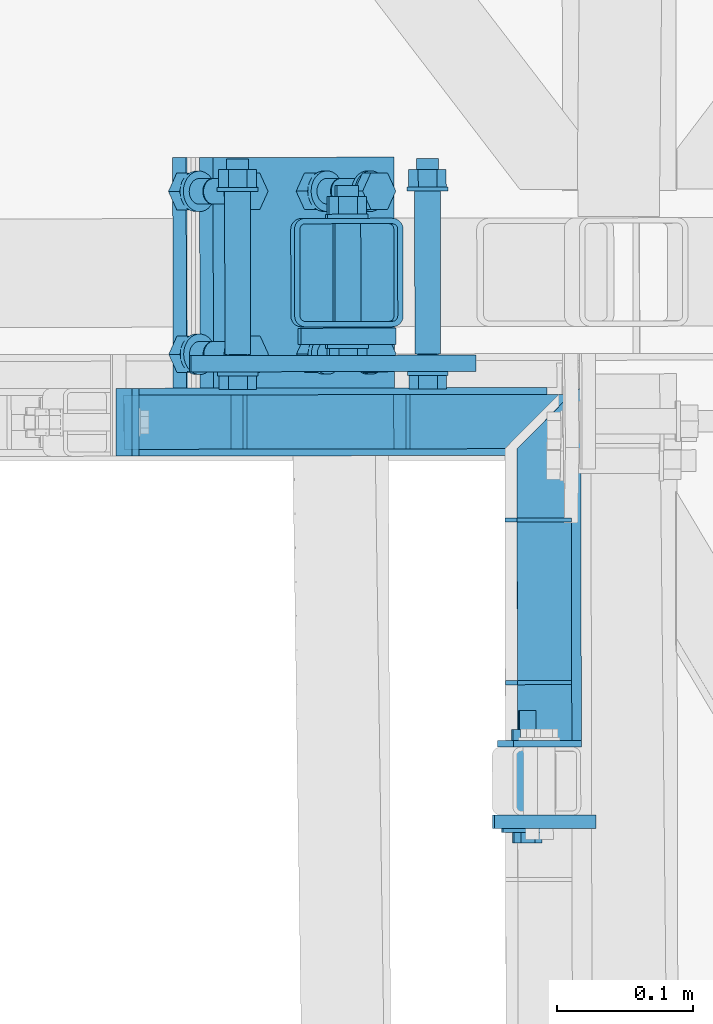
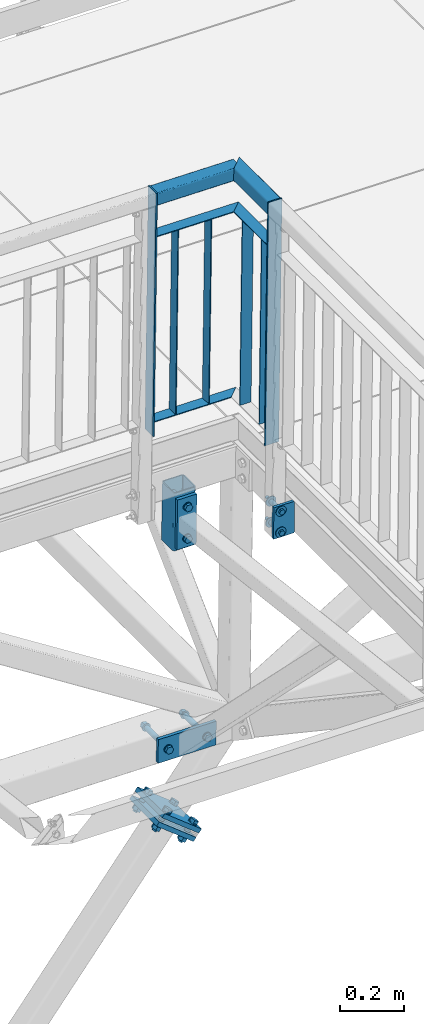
# One storey, part 108 of 169: 17 discrete accessories, 4 mechanical fasteners, 5 elements without a shape of their own.
"""IFC2X3 building model written with IfcOpenShell, lengths in millimetres."""

from ifc_helpers import new_model, si_unit, frame, frame_2d, origin_with_axes, origin_2d_with_axis, place, context, subcontext, project, spatial, polyline, circle_curve, parameter, trimmed, segment, composite_curve, rectangle, hollow_rectangle, circle, outline, extrude, boolean, clip, halfspace, source, transform, mapped, material, type_object, element, aggregate, save


model = new_model("IFC2X3")

# Units and contexts
model_context = context("Model", 3, precision=1e-05, world=origin_with_axes())
body_context = subcontext(model_context, "Body", "Model", "MODEL_VIEW")
ifc_project = project(units=[si_unit("LENGTHUNIT", "METRE", prefix="MILLI"), si_unit("AREAUNIT", "SQUARE_METRE"), si_unit("VOLUMEUNIT", "CUBIC_METRE"), si_unit("MASSUNIT", "GRAM", prefix="KILO"), si_unit("TIMEUNIT", "SECOND"), si_unit("PLANEANGLEUNIT", "RADIAN"), si_unit("SOLIDANGLEUNIT", "STERADIAN"), si_unit("THERMODYNAMICTEMPERATUREUNIT", "DEGREE_CELSIUS"), si_unit("LUMINOUSINTENSITYUNIT", "LUMEN")], contexts=[model_context])

# Site, building, storey
site_placement = place(None, origin_with_axes())
site = spatial("IfcSite", under=ifc_project, at=site_placement, Name="Undefined", CompositionType="ELEMENT")
building_placement = place(site_placement, origin_with_axes())
building = spatial("IfcBuilding", under=site, at=building_placement, Name="Undefined", CompositionType="ELEMENT")
storey_placement = place(building_placement, origin_with_axes())
storey = spatial("IfcBuildingStorey", under=building, at=storey_placement, Name="Undefined", CompositionType="ELEMENT", Elevation=0.0)

# Assembly, discrete accessory
assembly_1_placement = place(storey_placement, origin_with_axes())
assembly_1 = element("IfcElementAssembly", 1, at=assembly_1_placement, inside=storey, Name="Steel Assembly", AssemblyPlace="NOTDEFINED", PredefinedType="RIGID_FRAME")
ifc_material_1 = material(Name="STEEL/S235")
discrete_accessory_type_1 = type_object("IfcDiscreteAccessoryType", Name="BLACHA")
discrete_accessory_1_placement = place(assembly_1_placement, frame((7703.45379767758, -285.620756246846, 13856.3389885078), z_axis=(-0.0018648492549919, 0.999998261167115, -4.2996762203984e-08), x_axis=(-0.999917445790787, -0.00186469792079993, 0.0127131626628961)))
discrete_accessory_1 = element("IfcDiscreteAccessory", 2, at=discrete_accessory_1_placement, type_object=discrete_accessory_type_1, material=ifc_material_1, Name="BLACHA", ObjectType="BL10*120", context=body_context, shape_type="SweptSolid", body=[
    extrude(outline(polyline([(75.0001398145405, -60.0000000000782), (-5.35749222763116e-11, -59.9999999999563), (5.3567816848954e-11, 59.9999999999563), (75.0001398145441, 59.9999999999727), (75.0001398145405, -60.0000000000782)])), frame((-1.81898926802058e-12, -1.18000176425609e-16, -5.00000000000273), z_axis=(0.0, 0.0, 1.0), x_axis=(1.0, 0.0, 0.0)), (0.0, 0.0, 1.0), 10.0),
])
aggregate(assembly_1, [discrete_accessory_1])

# Assembly, discrete accessories
assembly_2_placement = place(storey_placement, origin_with_axes())
assembly_2 = element("IfcElementAssembly", 3, at=assembly_2_placement, inside=storey, Name="Steel Assembly", AssemblyPlace="NOTDEFINED", PredefinedType="RIGID_FRAME")
discrete_accessory_2_placement = place(assembly_2_placement, frame((7681.64119606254, -228.161326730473, 14115.6358857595), z_axis=(-0.0018648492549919, 0.999998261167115, -4.2996762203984e-08), x_axis=(-0.999917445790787, -0.00186469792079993, 0.0127131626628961)))
discrete_accessory_2 = element("IfcDiscreteAccessory", 4, at=discrete_accessory_2_placement, type_object=discrete_accessory_type_1, material=ifc_material_1, Name="BLACHA", ObjectType="BL5*50", context=body_context, shape_type="SweptSolid", body=[
    extrude(outline(polyline([(0.0, 0.0), (50.0000000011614, 3.27418092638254e-11), (50.0000000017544, 926.000000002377), (3.10365066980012e-08, 926.000000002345), (0.0, 0.0)])), frame((6.80888809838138e-19, -2.87858853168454e-21, -2.49999999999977), z_axis=(0.0, 0.0, 1.0), x_axis=(1.0, 0.0, 0.0)), (0.0, 0.0, 1.0), 5.0),
])
discrete_accessory_3_placement = place(assembly_2_placement, frame((7352.87333388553, 33.7260287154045, 14119.8096749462), z_axis=(-0.999917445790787, -0.00186469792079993, 0.0127131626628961), x_axis=(0.00186484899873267, -0.999998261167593, 4.28757666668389e-08)))
discrete_accessory_3 = element("IfcDiscreteAccessory", 5, at=discrete_accessory_3_placement, type_object=discrete_accessory_type_1, material=ifc_material_1, Name="BLACHA", ObjectType="BL5*50", context=body_context, shape_type="SweptSolid", body=[
    extrude(outline(polyline([(0.0, 0.0), (50.0000000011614, 3.27418092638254e-11), (50.0000000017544, 926.000000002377), (3.10365066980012e-08, 926.000000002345), (0.0, 0.0)])), frame((6.80888809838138e-19, -2.87858853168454e-21, -2.49999999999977), z_axis=(0.0, 0.0, 1.0), x_axis=(1.0, 0.0, 0.0)), (0.0, 0.0, 1.0), 5.0),
])

assembly_3_placement = place(storey_placement, origin_with_axes())
assembly_3 = element("IfcElementAssembly", 6, at=assembly_3_placement, inside=storey, Name="Steel Assembly", AssemblyPlace="NOTDEFINED", PredefinedType="RIGID_FRAME")
ifc_material_2 = material(Name="STEEL/S355")
discrete_accessory_4_placement = place(assembly_3_placement, frame((7615.11652637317, 52.2150508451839, 12857.373276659), z_axis=(0.00186484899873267, -0.999998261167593, 4.28757666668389e-08), x_axis=(-0.999917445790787, -0.00186469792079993, 0.0127131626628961)))
discrete_accessory_4 = element("IfcDiscreteAccessory", 7, at=discrete_accessory_4_placement, type_object=discrete_accessory_type_1, material=ifc_material_2, Name="BLACHA", ObjectType="BL12*90", context=body_context, shape_type="SweptSolid", body=[
    extrude(outline(polyline([(209.999999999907, 45.0000000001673), (209.999999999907, -44.999999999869), (0.0, -45.0000000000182), (0.0, 45.0000000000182), (209.999999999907, 45.0000000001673)])), frame((-1.81898942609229e-12, -1.81898940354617e-12, -5.99999999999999), z_axis=(0.0, 0.0, 1.0), x_axis=(1.0, 0.0, 0.0)), (0.0, 0.0, 1.0), 12.0),
])
discrete_accessory_5_placement = place(assembly_3_placement, frame((7555.59034186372, 72.1041117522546, 13684.5330790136), z_axis=(0.00186484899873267, -0.999998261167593, 4.28757666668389e-08), x_axis=(-0.999917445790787, -0.00186469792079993, 0.0127131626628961)))
discrete_accessory_5 = element("IfcDiscreteAccessory", 8, at=discrete_accessory_5_placement, type_object=discrete_accessory_type_1, material=ifc_material_2, Name="BLACHA", ObjectType="BL12*190", context=body_context, shape_type="SweptSolid", body=[
    extrude(outline(polyline([(69.9999999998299, 95.0000000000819), (69.9999999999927, -94.99999999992), (8.18545231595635e-11, -95.0), (-8.18545231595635e-11, 95.0000000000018), (69.9999999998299, 95.0000000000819)])), frame((-1.81898942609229e-12, -1.81898940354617e-12, -5.99999999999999), z_axis=(0.0, 0.0, 1.0), x_axis=(1.0, 0.0, 0.0)), (0.0, 0.0, 1.0), 12.0),
])

# Assembly, discrete accessory
assembly_4_placement = place(storey_placement, origin_with_axes())
assembly_4 = element("IfcElementAssembly", 9, at=assembly_4_placement, inside=storey, Name="Steel Assembly", AssemblyPlace="NOTDEFINED", PredefinedType="RIGID_FRAME")
discrete_accessory_6_placement = place(assembly_4_placement, frame((7530.56956357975, 119.057550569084, 12487.4207859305), z_axis=(-0.0018648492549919, 0.999998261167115, -4.2996762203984e-08), x_axis=(-0.784458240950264, -0.00146288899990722, 0.620179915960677)))
discrete_accessory_6 = element("IfcDiscreteAccessory", 10, at=discrete_accessory_6_placement, type_object=discrete_accessory_type_1, material=ifc_material_2, Name="BLACHA", ObjectType="BL16*170", context=body_context, shape_type="SweptSolid", body=[
    extrude(rectangle(XDim=16.0, YDim=170.0, at=origin_2d_with_axis()), frame((169.999999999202, 0.0, -3.62691994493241e-12), z_axis=(-1.0, -3.46944695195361e-18, -1.38777878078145e-17), x_axis=(1.73472347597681e-18, -1.0, 0.0)), (0.0, 0.0, 1.0), 170.0),
])

# Assembly, discrete accessories
assembly_5_placement = place(storey_placement, origin_with_axes())
assembly_5 = element("IfcElementAssembly", 11, at=assembly_5_placement, inside=storey, Name="Steel Assembly", AssemblyPlace="NOTDEFINED", PredefinedType="RIGID_FRAME")
discrete_accessory_7_placement = place(assembly_5_placement, frame((7550.41528677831, 119.094559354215, 12512.5234929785), z_axis=(-0.0018648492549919, 0.999998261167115, -4.2996762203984e-08), x_axis=(-0.784458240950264, -0.00146288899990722, 0.620179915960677)))
discrete_accessory_7 = element("IfcDiscreteAccessory", 12, at=discrete_accessory_7_placement, type_object=discrete_accessory_type_1, material=ifc_material_2, Name="BLACHA", ObjectType="BL16*170", context=body_context, shape_type="SweptSolid", body=[
    extrude(rectangle(XDim=16.0, YDim=170.0, at=origin_2d_with_axis()), frame((169.999999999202, 0.0, -3.62691994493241e-12), z_axis=(-1.0, -3.46944695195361e-18, -1.38777878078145e-17), x_axis=(1.73472347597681e-18, -1.0, 0.0)), (0.0, 0.0, 1.0), 170.0),
])
discrete_accessory_type_2 = type_object("IfcDiscreteAccessoryType", Name="BEAM")
discrete_accessory_8_placement = place(assembly_5_placement, frame((7519.15371098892, 119.036239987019, 13578.6499686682), z_axis=(-0.0018648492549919, 0.999998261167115, -4.2996762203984e-08), x_axis=(0.012713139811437, 2.3750999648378e-05, 0.999919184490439)))
discrete_accessory_8 = element("IfcDiscreteAccessory", 13, at=discrete_accessory_8_placement, type_object=discrete_accessory_type_2, material=ifc_material_2, Name="BEAM", ObjectType="K80/4", context=body_context, shape_type="Clipping", body=[
    clip(extrude(hollow_rectangle(XDim=80.0, YDim=80.0, WallThickness=4.0, InnerFilletRadius=4.0, OuterFilletRadius=8.0, at=origin_2d_with_axis()), frame((220.000000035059, 5.64865096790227e-19, 9.09533525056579e-13), z_axis=(-1.0, -3.46944695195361e-18, -1.38777878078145e-17), x_axis=(1.73472347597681e-18, -1.0, 0.0)), (0.0, 0.0, 1.0), 220.0), halfspace(frame((219.999998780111, -1.30057742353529e-09, 999.999999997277), z_axis=(-1.0, -3.46944695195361e-18, -1.38777878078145e-17), x_axis=(1.73472347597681e-18, -1.0, 0.0)), True)),
])
aggregate(assembly_5, [discrete_accessory_8, discrete_accessory_7])

# Discrete accessory
discrete_accessory_type_3 = type_object("IfcDiscreteAccessoryType", Name="PORĘCZ")
discrete_accessory_9_placement = place(assembly_2_placement, frame((7668.1024608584, -230.68653590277, 15016.8809001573), z_axis=(0.9999174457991, 0.00186469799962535, -0.0127131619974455), x_axis=(-0.0018648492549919, 0.999998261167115, -4.2996762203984e-08)))
discrete_accessory_9 = element("IfcDiscreteAccessory", 14, at=discrete_accessory_9_placement, type_object=discrete_accessory_type_3, material=ifc_material_1, Name="PORĘCZ", ObjectType="RHS50*3", context=body_context, shape_type="Clipping", body=[
    clip(clip(extrude(hollow_rectangle(XDim=50.0, YDim=50.0, WallThickness=3.0, InnerFilletRadius=3.0, OuterFilletRadius=6.0, at=origin_2d_with_axis()), frame((265.440555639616, -1.6160151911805e-19, -6.47074658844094e-17), z_axis=(-1.0, -3.46944695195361e-18, -1.38777878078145e-17), x_axis=(1.73472347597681e-18, -1.0, 0.0)), (0.0, 0.0, 1.0), 260.44), halfspace(frame((214.999998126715, 3.27418092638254e-11, -25.0000000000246), z_axis=(0.70710678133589, 2.34578304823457e-10, -0.707106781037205), x_axis=(1.73472347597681e-18, -1.0, 0.0)), False)), halfspace(frame((4.99999544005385, 1.23691279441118e-09, -1000.00000000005), z_axis=(1.0, 0.0, 0.0), x_axis=(1.73472347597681e-18, -1.0, 0.0)), True)),
])

discrete_accessory_10_placement = place(assembly_2_placement, frame((7851.74278924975, 9.65634155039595, 15014.5403576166), z_axis=(-0.0018648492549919, 0.999998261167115, -4.2996762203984e-08), x_axis=(-0.999917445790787, -0.00186469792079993, 0.0127131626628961)))
discrete_accessory_10 = element("IfcDiscreteAccessory", 15, at=discrete_accessory_10_placement, type_object=discrete_accessory_type_3, material=ifc_material_1, Name="PORĘCZ", ObjectType="SHS50*3", context=body_context, shape_type="Clipping", body=[
    clip(clip(extrude(hollow_rectangle(XDim=50.0, YDim=50.0, WallThickness=3.0, InnerFilletRadius=3.0, OuterFilletRadius=6.0, at=origin_2d_with_axis()), frame((484.90853261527, 8.41182215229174e-16, 8.82781425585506e-16), z_axis=(-1.0, -3.46944695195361e-18, -1.38777878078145e-17), x_axis=(1.73472347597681e-18, -1.0, 0.0)), (0.0, 0.0, 1.0), 300.81), halfspace(frame((484.908532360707, 2.90492607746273e-09, 1000.00000000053), z_axis=(-1.0, -3.46944695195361e-18, -1.38777878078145e-17), x_axis=(1.73472347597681e-18, -1.0, 0.0)), True)), halfspace(frame((209.103090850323, -1.97698682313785e-07, -25.0000000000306), z_axis=(0.707106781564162, 2.34575523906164e-10, 0.707106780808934), x_axis=(1.73472347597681e-18, -1.0, 0.0)), True)),
])

discrete_accessory_11_placement = place(assembly_2_placement, frame((7415.93521230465, 8.84361870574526, 14875.0695881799), z_axis=(0.012713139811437, 2.3750999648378e-05, 0.999919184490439), x_axis=(0.9999174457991, 0.00186469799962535, -0.0127131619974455)))
discrete_accessory_11 = element("IfcDiscreteAccessory", 16, at=discrete_accessory_11_placement, type_object=discrete_accessory_type_3, material=ifc_material_1, Name="PORĘCZ", ObjectType="BL40*3", context=body_context, shape_type="Clipping", body=[
    clip(clip(clip(extrude(outline(polyline([(-50.9085324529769, -20.0000000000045), (-50.9085324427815, 19.9999999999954), (269.896909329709, 20.0000000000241), (229.896909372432, -19.9999999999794), (-50.9085324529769, -20.0000000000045)])), frame((1.81898940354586e-12, -1.77635442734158e-15, -1.50000000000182), z_axis=(0.0, 0.0, 1.0), x_axis=(1.0, 0.0, 0.0)), (0.0, 0.0, 1.0), 3.0), halfspace(frame((229.896909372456, -20.0000000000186, -4.1202838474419e-07), z_axis=(-0.707106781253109, 0.707106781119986, 1.80100347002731e-10), x_axis=(-2.54700353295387e-10, 0.0, -1.0)), True)), halfspace(frame((-50.9085321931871, 1000.00000000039, 2.78669176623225e-09), z_axis=(1.0, 0.0, 0.0), x_axis=(-2.54700353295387e-10, 0.0, -1.0)), True)), halfspace(frame((-55.9085331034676, 1000.00000001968, -1.57342583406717e-09), z_axis=(1.0, 0.0, 0.0), x_axis=(-2.54700353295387e-10, 0.0, -1.0)), True)),
])

discrete_accessory_12_placement = place(assembly_2_placement, frame((7447.32580423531, 8.90216375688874, 15019.6822007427), z_axis=(-0.0018648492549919, 0.999998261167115, -4.2996762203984e-08), x_axis=(-0.012713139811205, -2.37511238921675e-05, -0.999919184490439)))
discrete_accessory_12 = element("IfcDiscreteAccessory", 17, at=discrete_accessory_12_placement, type_object=discrete_accessory_type_3, material=ifc_material_1, Name="PORĘCZ", ObjectType="BL40*3", context=body_context, shape_type="Clipping", body=[
    clip(clip(extrude(rectangle(XDim=3.0, YDim=40.0, at=origin_2d_with_axis()), frame((848.500000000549, 1.47191286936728e-15, -8.89750592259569e-16), z_axis=(-1.0, -3.46944695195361e-18, -1.38777878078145e-17), x_axis=(1.73472347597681e-18, -1.0, 0.0)), (0.0, 0.0, 1.0), 702.0), halfspace(frame((848.499999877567, 4.522007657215e-09, 1000.00000000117), z_axis=(-1.0, -3.46944695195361e-18, -1.38777878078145e-17), x_axis=(1.73472347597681e-18, -1.0, 0.0)), True)), halfspace(frame((146.499999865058, 4.97311702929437e-09, 1000.00000000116), z_axis=(1.0, 0.0, 0.0), x_axis=(0.0, 1.0, 0.0)), True)),
])

discrete_accessory_13_placement = place(assembly_2_placement, frame((7567.31589773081, 9.12592751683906, 15018.156621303), z_axis=(-0.0018648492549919, 0.999998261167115, -4.2996762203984e-08), x_axis=(-0.012713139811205, -2.37511238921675e-05, -0.999919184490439)))
discrete_accessory_13 = element("IfcDiscreteAccessory", 18, at=discrete_accessory_13_placement, type_object=discrete_accessory_type_3, material=ifc_material_1, Name="PORĘCZ", ObjectType="BL40*3", context=body_context, shape_type="Clipping", body=[
    clip(clip(extrude(rectangle(XDim=3.0, YDim=40.0, at=origin_2d_with_axis()), frame((848.500000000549, 1.47191286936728e-15, -8.89750592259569e-16), z_axis=(-1.0, -3.46944695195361e-18, -1.38777878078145e-17), x_axis=(1.73472347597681e-18, -1.0, 0.0)), (0.0, 0.0, 1.0), 702.0), halfspace(frame((848.499999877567, 4.522007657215e-09, 1000.00000000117), z_axis=(-1.0, -3.46944695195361e-18, -1.38777878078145e-17), x_axis=(1.73472347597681e-18, -1.0, 0.0)), True)), halfspace(frame((146.499999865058, 4.97311702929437e-09, 1000.00000000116), z_axis=(1.0, 0.0, 0.0), x_axis=(0.0, 1.0, 0.0)), True)),
])

discrete_accessory_14_placement = place(assembly_2_placement, frame((7406.9724487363, 8.82687416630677, 14170.1265630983), z_axis=(0.012713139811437, 2.3750999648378e-05, 0.999919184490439), x_axis=(0.9999174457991, 0.00186469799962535, -0.0127131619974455)))
discrete_accessory_14 = element("IfcDiscreteAccessory", 19, at=discrete_accessory_14_placement, type_object=discrete_accessory_type_3, material=ifc_material_1, Name="PORĘCZ", ObjectType="BL40*3", context=body_context, shape_type="Clipping", body=[
    clip(clip(clip(extrude(outline(polyline([(-50.9085324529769, -20.0000000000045), (-50.9085324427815, 19.9999999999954), (269.896909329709, 20.0000000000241), (229.896909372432, -19.9999999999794), (-50.9085324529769, -20.0000000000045)])), frame((1.81898940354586e-12, -1.77635442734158e-15, -1.50000000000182), z_axis=(0.0, 0.0, 1.0), x_axis=(1.0, 0.0, 0.0)), (0.0, 0.0, 1.0), 3.0), halfspace(frame((229.896909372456, -20.0000000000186, -4.1202838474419e-07), z_axis=(-0.707106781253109, 0.707106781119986, 1.80100347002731e-10), x_axis=(-2.54700353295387e-10, 0.0, -1.0)), True)), halfspace(frame((-50.9085321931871, 1000.00000000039, 2.78669176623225e-09), z_axis=(1.0, 0.0, 0.0), x_axis=(-2.54700353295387e-10, 0.0, -1.0)), True)), halfspace(frame((-55.9085331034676, 1000.00000001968, -1.57342583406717e-09), z_axis=(1.0, 0.0, 0.0), x_axis=(-2.54700353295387e-10, 0.0, -1.0)), True)),
])

discrete_accessory_15_placement = place(assembly_2_placement, frame((7667.79009835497, -63.1868270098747, 15016.880892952), z_axis=(0.9999174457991, 0.00186469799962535, -0.0127131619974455), x_axis=(-0.012713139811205, -2.37511238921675e-05, -0.999919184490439)))
discrete_accessory_15 = element("IfcDiscreteAccessory", 20, at=discrete_accessory_15_placement, type_object=discrete_accessory_type_3, material=ifc_material_1, Name="PORĘCZ", ObjectType="BL40*3", context=body_context, shape_type="Clipping", body=[
    clip(clip(extrude(rectangle(XDim=3.0, YDim=40.0, at=origin_2d_with_axis()), frame((848.500000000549, 1.47191286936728e-15, -8.89750592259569e-16), z_axis=(-1.0, -3.46944695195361e-18, -1.38777878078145e-17), x_axis=(1.73472347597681e-18, -1.0, 0.0)), (0.0, 0.0, 1.0), 702.0), halfspace(frame((848.500000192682, -1.64149582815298e-10, -999.999999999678), z_axis=(-1.0, -3.46944695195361e-18, -1.38777878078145e-17), x_axis=(0.0, 1.0, 0.0)), True)), halfspace(frame((146.500000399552, -5.92180526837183e-10, -999.999999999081), z_axis=(1.0, 0.0, 0.0), x_axis=(1.73472347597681e-18, -1.0, 0.0)), True)),
])

discrete_accessory_16_placement = place(assembly_2_placement, frame((7668.01388026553, -183.1866183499, 15016.8808981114), z_axis=(0.9999174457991, 0.00186469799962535, -0.0127131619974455), x_axis=(-0.012713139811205, -2.37511238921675e-05, -0.999919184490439)))
discrete_accessory_16 = element("IfcDiscreteAccessory", 21, at=discrete_accessory_16_placement, type_object=discrete_accessory_type_3, material=ifc_material_1, Name="PORĘCZ", ObjectType="BL40*3", context=body_context, shape_type="Clipping", body=[
    clip(clip(extrude(rectangle(XDim=3.0, YDim=40.0, at=origin_2d_with_axis()), frame((848.500000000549, 1.47191286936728e-15, -8.89750592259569e-16), z_axis=(-1.0, -3.46944695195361e-18, -1.38777878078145e-17), x_axis=(1.73472347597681e-18, -1.0, 0.0)), (0.0, 0.0, 1.0), 702.0), halfspace(frame((848.500000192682, -1.64149582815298e-10, -999.999999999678), z_axis=(-1.0, -3.46944695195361e-18, -1.38777878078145e-17), x_axis=(0.0, 1.0, 0.0)), True)), halfspace(frame((146.500000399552, -5.92180526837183e-10, -999.999999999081), z_axis=(1.0, 0.0, 0.0), x_axis=(1.73472347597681e-18, -1.0, 0.0)), True)),
])

discrete_accessory_17_placement = place(assembly_2_placement, frame((7665.83946436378, -5.69037104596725, 14871.8926085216), z_axis=(0.012713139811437, 2.3750999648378e-05, 0.999919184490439), x_axis=(0.00186484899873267, -0.999998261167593, 4.28757666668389e-08)))
discrete_accessory_17 = element("IfcDiscreteAccessory", 22, at=discrete_accessory_17_placement, type_object=discrete_accessory_type_3, material=ifc_material_1, Name="PORĘCZ", ObjectType="BL40*3", context=body_context, shape_type="CSG", body=[
    boolean("DIFFERENCE", boolean("DIFFERENCE", boolean("DIFFERENCE", boolean("DIFFERENCE", extrude(outline(polyline([(5.00000188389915, -20.0000000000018), (-34.9999980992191, 19.9999999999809), (220.000004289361, 20.0000000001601), (220.000004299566, -19.9999999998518), (5.00000188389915, -20.0000000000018)])), frame((1.81898940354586e-12, -1.77635442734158e-15, -1.50000000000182), z_axis=(0.0, 0.0, 1.0), x_axis=(1.0, 0.0, 0.0)), (0.0, 0.0, 1.0), 3.0), extrude(rectangle(XDim=51.0, YDim=51.0, at=origin_2d_with_axis()), frame((249.999999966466, -2.54023980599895e-08, 139.999999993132), z_axis=(-2.54700353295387e-10, 0.0, -1.0), x_axis=(-1.0, -3.46944695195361e-18, -1.38777878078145e-17)), (0.0, 0.0, 1.0), 280.0)), halfspace(frame((220.000004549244, -1000.00000000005, 1.11504050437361e-09), z_axis=(-1.0, -3.46944695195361e-18, -1.38777878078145e-17), x_axis=(-2.54700353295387e-10, 0.0, -1.0)), True)), halfspace(frame((5.00000188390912, -20.0000000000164, -7.27595761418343e-12), z_axis=(-0.707106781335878, -0.707106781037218, 2.34571939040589e-10), x_axis=(-2.54700353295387e-10, 0.0, -1.0)), False)), halfspace(frame((224.9999992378, -999.999999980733, 4.2127794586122e-09), z_axis=(-1.0, -3.46944695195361e-18, -1.38777878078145e-17), x_axis=(-2.54700353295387e-10, 0.0, -1.0)), True)),
])

# Mechanical fastener
ifc_material_3 = material(Name="Undefined")
discrete_accessory_type_4 = type_object("IfcDiscreteAccessoryType", Name="Bolt assembly")
shared_shape_1 = source(origin_with_axes(), body_context, "Body", "SweptSolid", [
    extrude(circle(Radius=9.0, at=origin_2d_with_axis()), frame((0.0, -4.90000000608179, 0.0), z_axis=(0.0, 1.0, 0.0), x_axis=(1.0, 0.0, 0.0)), (0.0, 0.0, 1.0), 10.0),
    extrude(circle(Radius=9.0, at=origin_2d_with_axis()), frame((0.0, 4.89999999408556, 0.0), z_axis=(0.0, 1.0, 0.0), x_axis=(1.0, 0.0, 0.0)), (0.0, 0.0, 1.0), 50.1),
    extrude(outline(polyline([(10.39230484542, 0.0), (5.19615242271, 9.00000000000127), (-5.19615242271, 9.00000000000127), (-10.39230484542, 0.0), (-5.19615242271, -9.00000000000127), (5.19615242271, -9.00000000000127), (10.39230484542, 0.0)])), frame((0.0, -15.5000000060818, 0.0), z_axis=(0.0, 1.0, 0.0), x_axis=(1.0, 0.0, 0.0)), (0.0, 0.0, 1.0), 7.5),
    extrude(circle(Radius=6.0, at=origin_2d_with_axis()), frame((0.0, -8.00000000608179, 0.0), z_axis=(0.0, 1.0, 0.0), x_axis=(1.0, 0.0, 0.0)), (0.0, 0.0, 1.0), 90.0),
    extrude(circle(Radius=18.5, at=origin_2d_with_axis()), frame((0.0, -8.00000000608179, 0.0), z_axis=(0.0, 1.0, 0.0), x_axis=(1.0, 0.0, 0.0)), (0.0, 0.0, 1.0), 3.0),
    extrude(circle(Radius=18.5, at=origin_2d_with_axis()), frame((0.0, 54.9999999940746, 0.0), z_axis=(0.0, 1.0, 0.0), x_axis=(1.0, 0.0, 0.0)), (0.0, 0.0, 1.0), 3.0),
    extrude(outline(polyline([(10.96965511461, 0.0), (5.484827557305, 9.50000000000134), (-5.484827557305, 9.50000000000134), (-10.96965511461, 0.0), (-5.484827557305, -9.50000000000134), (5.484827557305, -9.50000000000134), (10.96965511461, 0.0)])), frame((0.0, 57.9999999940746, 0.0), z_axis=(0.0, 1.0, 0.0), x_axis=(1.0, 0.0, 0.0)), (0.0, 0.0, 1.0), 10.0),
])
mechanical_fastener_1_placement = place(assembly_2_placement, frame((7653.46414215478, -285.713979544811, 13857.4746079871), z_axis=(0.0122131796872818, 2.28189994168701e-05, 0.999925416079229), x_axis=(0.999923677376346, 0.00186471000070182, -0.0122132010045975)))
mechanical_fastener_1 = element("IfcMechanicalFastener", 23, at=mechanical_fastener_1_placement, type_object=discrete_accessory_type_4, material=ifc_material_3, Name="Bolt assembly", NominalDiameter=12.0, NominalLength=90.0, context=body_context, shape_type="MappedRepresentation", body=[
    mapped(shared_shape_1, transform((-1.15463194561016e-14, 5.45696821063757e-11, -39.9999999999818))),
    mapped(shared_shape_1, transform((8.88178419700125e-15, -5.54791768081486e-11, 39.99999999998))),
])

aggregate(assembly_2, [mechanical_fastener_1, discrete_accessory_2, discrete_accessory_9, discrete_accessory_10, discrete_accessory_11, discrete_accessory_12, discrete_accessory_13, discrete_accessory_14, discrete_accessory_15, discrete_accessory_16, discrete_accessory_17, discrete_accessory_3])

shared_shape_2 = source(origin_with_axes(), body_context, "Body", "SweptSolid", [
    extrude(circle(Radius=9.5, at=origin_2d_with_axis()), frame((0.0, 4.39999998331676, 0.0), z_axis=(0.0, 1.0, 0.0), x_axis=(1.0, 0.0, 0.0)), (0.0, 0.0, 1.0), 120.1),
    extrude(outline(composite_curve([segment(polyline([(9.5, 10.0), (9.5, -10.0)]), True, "CONTINUOUS"), segment(trimmed(circle_curve(frame_2d((0.0, -10.0), x_axis=(1.0, 0.0)), 9.5), [parameter(0.0)], [parameter(3.14159265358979)], False, "PARAMETER"), True, "CONTINUOUS"), segment(polyline([(-9.5, -10.0), (-9.5, 10.0)]), True, "CONTINUOUS"), segment(trimmed(circle_curve(frame_2d((0.0, 10.0), x_axis=(-1.0, 0.0)), 9.5), [parameter(0.0)], [parameter(3.14159265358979)], False, "PARAMETER"), True, "DISCONTINUOUS")], self_intersect=False)), frame((0.0, -8.39999975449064, 0.0), z_axis=(0.0, 1.0, 0.0), x_axis=(1.0, 0.0, 0.0)), (0.0, 0.0, 1.0), 12.0),
    extrude(outline(polyline([(13.85640646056, 0.0), (6.92820323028, 12.0000000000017), (-6.92820323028, 12.0000000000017), (-13.85640646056, 0.0), (-6.92820323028, -12.0000000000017), (6.92820323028, -12.0000000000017), (13.85640646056, 0.0)])), frame((0.0, -21.4999999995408, 0.0), z_axis=(0.0, 1.0, 0.0), x_axis=(1.0, 0.0, 0.0)), (0.0, 0.0, 1.0), 10.0),
    extrude(circle(Radius=8.0, at=origin_2d_with_axis()), frame((0.0, -11.4999999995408, 0.0), z_axis=(0.0, 1.0, 0.0), x_axis=(1.0, 0.0, 0.0)), (0.0, 0.0, 1.0), 160.0),
    extrude(circle(Radius=15.0, at=origin_2d_with_axis()), frame((0.0, -11.4999999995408, 0.0), z_axis=(0.0, 1.0, 0.0), x_axis=(1.0, 0.0, 0.0)), (0.0, 0.0, 1.0), 3.0),
    extrude(circle(Radius=15.0, at=origin_2d_with_axis()), frame((0.0, 124.499999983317, 0.0), z_axis=(0.0, 1.0, 0.0), x_axis=(1.0, 0.0, 0.0)), (0.0, 0.0, 1.0), 3.0),
    extrude(outline(polyline([(13.85640646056, 0.0), (6.92820323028, 12.0000000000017), (-6.92820323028, 12.0000000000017), (-13.85640646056, 0.0), (-6.92820323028, -12.0000000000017), (6.92820323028, -12.0000000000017), (13.85640646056, 0.0)])), frame((0.0, 127.499999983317, 0.0), z_axis=(0.0, 1.0, 0.0), x_axis=(1.0, 0.0, 0.0)), (0.0, 0.0, 1.0), 13.0),
])
mechanical_fastener_2_placement = place(assembly_3_placement, frame((7440.12631123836, 54.38872434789, 12859.5980798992), z_axis=(0.012713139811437, 2.3750999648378e-05, 0.999919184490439), x_axis=(0.9999174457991, 0.00186469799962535, -0.0127131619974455)))
mechanical_fastener_2 = element("IfcMechanicalFastener", 24, at=mechanical_fastener_2_placement, type_object=discrete_accessory_type_4, material=ifc_material_3, Name="Bolt assembly", NominalDiameter=16.0, NominalLength=160.0, context=body_context, shape_type="MappedRepresentation", body=[
    mapped(shared_shape_2, transform((0.0, 0.0, 0.0))),
    mapped(shared_shape_2, transform((139.999999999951, -4.15525391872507e-11, -3.09228198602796e-11))),
])

shared_shape_3 = source(origin_with_axes(), body_context, "Body", "SweptSolid", [
    extrude(circle(Radius=9.5, at=origin_2d_with_axis()), frame((0.0, 4.39999998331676, 0.0), z_axis=(0.0, 1.0, 0.0), x_axis=(1.0, 0.0, 0.0)), (0.0, 0.0, 1.0), 80.1),
    extrude(outline(composite_curve([segment(polyline([(9.5, 10.0), (9.5, -10.0)]), True, "CONTINUOUS"), segment(trimmed(circle_curve(frame_2d((0.0, -10.0), x_axis=(1.0, 0.0)), 9.5), [parameter(0.0)], [parameter(3.14159265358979)], False, "PARAMETER"), True, "CONTINUOUS"), segment(polyline([(-9.5, -10.0), (-9.5, 10.0)]), True, "CONTINUOUS"), segment(trimmed(circle_curve(frame_2d((0.0, 10.0), x_axis=(-1.0, 0.0)), 9.5), [parameter(0.0)], [parameter(3.14159265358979)], False, "PARAMETER"), True, "DISCONTINUOUS")], self_intersect=False)), frame((0.0, -8.39999975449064, 0.0), z_axis=(0.0, 1.0, 0.0), x_axis=(1.0, 0.0, 0.0)), (0.0, 0.0, 1.0), 12.0),
    extrude(outline(polyline([(13.85640646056, 0.0), (6.92820323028, 12.0000000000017), (-6.92820323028, 12.0000000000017), (-13.85640646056, 0.0), (-6.92820323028, -12.0000000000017), (6.92820323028, -12.0000000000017), (13.85640646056, 0.0)])), frame((0.0, -21.4999999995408, 0.0), z_axis=(0.0, 1.0, 0.0), x_axis=(1.0, 0.0, 0.0)), (0.0, 0.0, 1.0), 10.0),
    extrude(circle(Radius=8.0, at=origin_2d_with_axis()), frame((0.0, -11.4999999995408, 0.0), z_axis=(0.0, 1.0, 0.0), x_axis=(1.0, 0.0, 0.0)), (0.0, 0.0, 1.0), 120.0),
    extrude(circle(Radius=15.0, at=origin_2d_with_axis()), frame((0.0, -11.4999999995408, 0.0), z_axis=(0.0, 1.0, 0.0), x_axis=(1.0, 0.0, 0.0)), (0.0, 0.0, 1.0), 3.0),
    extrude(circle(Radius=15.0, at=origin_2d_with_axis()), frame((0.0, 84.4999999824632, 0.0), z_axis=(0.0, 1.0, 0.0), x_axis=(1.0, 0.0, 0.0)), (0.0, 0.0, 1.0), 3.0),
    extrude(outline(polyline([(13.85640646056, 0.0), (6.92820323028, 12.0000000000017), (-6.92820323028, 12.0000000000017), (-13.85640646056, 0.0), (-6.92820323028, -12.0000000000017), (6.92820323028, -12.0000000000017), (13.85640646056, 0.0)])), frame((0.0, 87.4999999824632, 0.0), z_axis=(0.0, 1.0, 0.0), x_axis=(1.0, 0.0, 0.0)), (0.0, 0.0, 1.0), 13.0),
])
mechanical_fastener_3_placement = place(assembly_3_placement, frame((7520.5885691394, 74.5388429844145, 13684.9780395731), z_axis=(0.012713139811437, 2.3750999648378e-05, 0.999919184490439), x_axis=(0.9999174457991, 0.00186469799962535, -0.0127131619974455)))
mechanical_fastener_3 = element("IfcMechanicalFastener", 25, at=mechanical_fastener_3_placement, type_object=discrete_accessory_type_4, material=ifc_material_3, Name="Bolt assembly", NominalDiameter=16.0, NominalLength=120.0, context=body_context, shape_type="MappedRepresentation", body=[
    mapped(shared_shape_3, transform((1.18234311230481e-11, 9.20081788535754e-11, -60.0000000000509))),
    mapped(shared_shape_3, transform((-1.2732925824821e-11, -9.20223897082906e-11, 60.0000000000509))),
])

aggregate(assembly_3, [mechanical_fastener_2, discrete_accessory_4, mechanical_fastener_3, discrete_accessory_5])

shared_shape_4 = source(origin_with_axes(), body_context, "Body", "SweptSolid", [
    extrude(circle(Radius=9.5, at=origin_2d_with_axis()), frame((0.0, -23.9000000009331, 0.0), z_axis=(0.0, 1.0, 0.0), x_axis=(1.0, 0.0, 0.0)), (0.0, 0.0, 1.0), 16.0),
    extrude(circle(Radius=9.5, at=origin_2d_with_axis()), frame((0.0, 7.89999997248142, 0.0), z_axis=(0.0, 1.0, 0.0), x_axis=(1.0, 0.0, 0.0)), (0.0, 0.0, 1.0), 16.1),
    extrude(circle(Radius=9.5, at=origin_2d_with_axis()), frame((0.0, 1.99999997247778, 0.0), z_axis=(0.0, 1.0, 0.0), x_axis=(1.0, 0.0, 0.0)), (0.0, 0.0, 1.0), 5.0),
    extrude(circle(Radius=9.5, at=origin_2d_with_axis()), frame((0.0, -3.00000607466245, 0.0), z_axis=(0.0, 1.0, 0.0), x_axis=(1.0, 0.0, 0.0)), (0.0, 0.0, 1.0), 5.0),
    extrude(circle(Radius=9.5, at=origin_2d_with_axis()), frame((0.0, -8.00000000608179, 0.0), z_axis=(0.0, 1.0, 0.0), x_axis=(1.0, 0.0, 0.0)), (0.0, 0.0, 1.0), 5.0),
    extrude(outline(polyline([(15.58845726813, 0.0), (7.794228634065, 13.5000000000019), (-7.794228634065, 13.5000000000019), (-15.58845726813, 0.0), (-7.794228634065, -13.5000000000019), (7.794228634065, -13.5000000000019), (15.58845726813, 0.0)])), frame((0.0, -38.0000000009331, 0.0), z_axis=(0.0, 1.0, 0.0), x_axis=(1.0, 0.0, 0.0)), (0.0, 0.0, 1.0), 10.0),
    extrude(circle(Radius=8.0, at=origin_2d_with_axis()), frame((0.0, -28.0000000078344, 0.0), z_axis=(0.0, 1.0, 0.0), x_axis=(1.0, 0.0, 0.0)), (0.0, 0.0, 1.0), 75.0),
    extrude(circle(Radius=15.0, at=origin_2d_with_axis()), frame((0.0, -28.0000000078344, 0.0), z_axis=(0.0, 1.0, 0.0), x_axis=(1.0, 0.0, 0.0)), (0.0, 0.0, 1.0), 4.0),
    extrude(circle(Radius=15.0, at=origin_2d_with_axis()), frame((0.0, 24.0000000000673, 0.0), z_axis=(0.0, 1.0, 0.0), x_axis=(1.0, 0.0, 0.0)), (0.0, 0.0, 1.0), 4.0),
    extrude(outline(polyline([(15.58845726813, 0.0), (7.794228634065, 13.5000000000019), (-7.794228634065, 13.5000000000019), (-15.58845726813, 0.0), (-7.794228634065, -13.5000000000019), (7.794228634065, -13.5000000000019), (15.58845726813, 0.0)])), frame((0.0, 27.9999999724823, 0.0), z_axis=(0.0, 1.0, 0.0), x_axis=(1.0, 0.0, 0.0)), (0.0, 0.0, 1.0), 13.0),
])
mechanical_fastener_4_placement = place(assembly_4_placement, frame((7442.43514486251, 118.893193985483, 12577.4946291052), z_axis=(-0.0018648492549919, 0.999998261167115, -4.2996762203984e-08), x_axis=(0.784458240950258, 0.0014628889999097, -0.620179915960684)))
mechanical_fastener_4 = element("IfcMechanicalFastener", 26, at=mechanical_fastener_4_placement, type_object=discrete_accessory_type_4, material=ifc_material_3, Name="Bolt assembly", NominalDiameter=16.0, NominalLength=75.0, context=body_context, shape_type="MappedRepresentation", body=[
    mapped(shared_shape_4, transform((-20.0000000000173, 3.45607986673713e-11, -60.0000000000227))),
    mapped(shared_shape_4, transform((-19.9999999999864, -5.45696821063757e-12, 59.9999999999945))),
    mapped(shared_shape_4, transform((99.9999999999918, -5.82076609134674e-11, -59.9999999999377))),
    mapped(shared_shape_4, transform((100.000000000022, -9.64064383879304e-11, 60.00000000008))),
])

aggregate(assembly_4, [mechanical_fastener_4, discrete_accessory_6])

save(model, "model.ifc")
